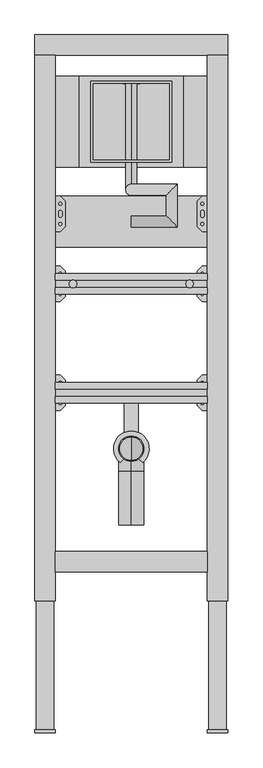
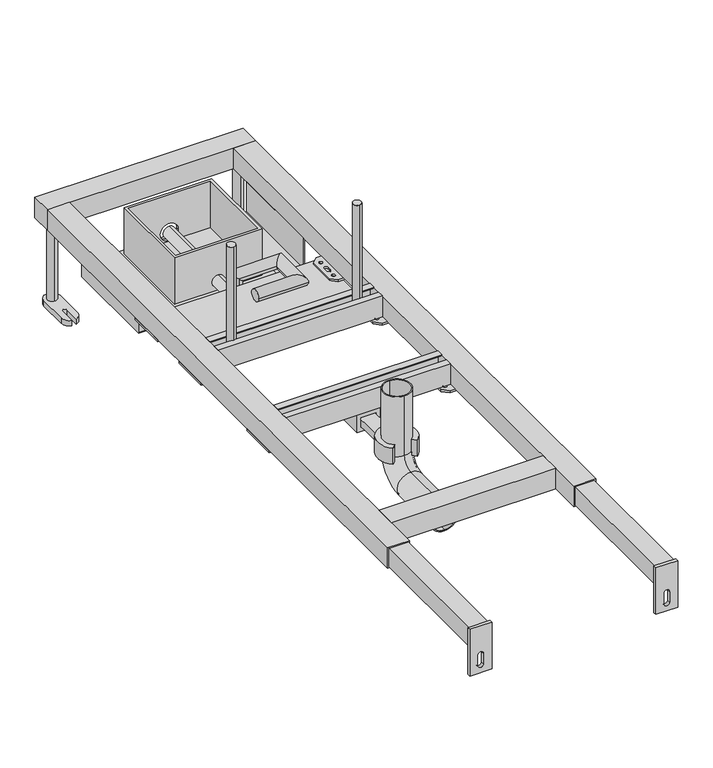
"""IFC4 building model written with IfcOpenShell, lengths in millimetres: flow terminal geometry, LIV-FIX UR STEEL SV : LIV-FIX UR STEEL SV."""

from ifc_helpers import new_model, si_unit, point, frame, frame_2d, origin, origin_with_axes, place, context, project, spatial, polyline, circle_curve, ellipse_curve, trimmed, segment, composite_curve, outline, extrude, source, transform, mapped, element, save
from ifc_brep_helpers import plane_surface, cylinder_surface, revolved_surface, advanced_brep


def flow_terminal_15969339(model_context):
    return source(origin(), model_context, "Body", "SolidModel", [
        advanced_brep(
        [(0.0, 797.0, 167.378088), (0.0, 819.0, 167.378088), (91.0, 797.0, 167.378088), (69.0, 819.0, 167.378088), (91.0, 881.5546816, 167.378088), (69.0, 859.5546816, 167.378088), (0.0, 881.5546816, 167.378088), (0.0, 859.5546816, 167.378088), (0.0, 881.5546816, 135.5), (0.0, 859.5546816, 113.5), (0.0, 1079.85, 135.5), (0.0, 1079.85, 113.5)],
        [
            (0, 1, circle_curve(frame((0.0, 808.0, 167.378088), z_axis=(-1.0, 0.0, 0.0), x_axis=(0.0, 1.0, 0.0)), 11.0)),
            (1, 0, circle_curve(frame((0.0, 808.0, 167.378088), z_axis=(-1.0, 0.0, 0.0), x_axis=(0.0, 1.0, 0.0)), 11.0)),
            (0, 2),
            (2, 3, ellipse_curve(frame((80.0, 808.0, 167.378088), z_axis=(-0.7071067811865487, -0.7071067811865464, 0.0), x_axis=(-0.7071067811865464, 0.7071067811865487, 0.0)), 15.5563492, 11.0)),
            (3, 1),
            (3, 2, ellipse_curve(frame((80.0, 808.0, 167.378088), z_axis=(-0.7071067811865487, -0.7071067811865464, 0.0), x_axis=(-0.7071067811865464, 0.7071067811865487, 0.0)), 15.5563492, 11.0)),
            (2, 4),
            (4, 5, ellipse_curve(frame((80.0, 870.5546816, 167.378088), z_axis=(0.7071067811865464, -0.7071067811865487, 0.0), x_axis=(-0.7071067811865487, -0.7071067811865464, 0.0)), 15.5563492, 11.0)),
            (5, 3),
            (5, 4, ellipse_curve(frame((80.0, 870.5546816, 167.378088), z_axis=(0.7071067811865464, -0.7071067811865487, 0.0), x_axis=(-0.7071067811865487, -0.7071067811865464, 0.0)), 15.5563492, 11.0)),
            (4, 6),
            (6, 7, ellipse_curve(frame((0.0, 870.5546816, 167.378088), z_axis=(0.7071067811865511, 0.0, 0.7071067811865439), x_axis=(0.7071067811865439, 0.0, -0.7071067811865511)), 15.5563492, 11.0)),
            (7, 5),
            (7, 6, ellipse_curve(frame((0.0, 870.5546816, 167.378088), z_axis=(0.7071067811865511, 0.0, 0.7071067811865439), x_axis=(0.7071067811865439, 0.0, -0.7071067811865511)), 15.5563492, 11.0)),
            (6, 8),
            (8, 9, ellipse_curve(frame((0.0, 870.5546816, 124.5), z_axis=(0.0, -0.7071067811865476, 0.7071067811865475), x_axis=(0.0, 0.7071067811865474, 0.7071067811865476)), 15.5563492, 11.0)),
            (9, 7),
            (9, 8, ellipse_curve(frame((0.0, 870.5546816, 124.5), z_axis=(0.0, -0.7071067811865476, 0.7071067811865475), x_axis=(0.0, 0.7071067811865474, 0.7071067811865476)), 15.5563492, 11.0)),
            (10, 11, circle_curve(frame((0.0, 1079.85, 124.5), z_axis=(0.0, 1.0, 0.0), x_axis=(0.0, 0.0, -1.0)), 11.0)),
            (11, 10, circle_curve(frame((0.0, 1079.85, 124.5), z_axis=(0.0, 1.0, 0.0), x_axis=(0.0, 0.0, -1.0)), 11.0)),
            (8, 10),
            (11, 9),
        ],
        [
            plane_surface(frame((0.0, 808.0, 156.378088), z_axis=(-1.0, 0.0, 0.0), x_axis=(0.0, 1.0, 0.0))),
            cylinder_surface(frame((0.0, 808.0, 167.378088), z_axis=(-1.0, 0.0, 0.0), x_axis=(0.0, 1.0, 0.0)), 11.0),
            cylinder_surface(frame((80.0, 808.0, 167.378088), z_axis=(0.0, -1.0, 0.0), x_axis=(-1.0, 0.0, 0.0)), 11.0),
            cylinder_surface(frame((80.0, 870.5546816, 167.378088), z_axis=(1.0, 0.0, 0.0), x_axis=(0.0, -1.0, 0.0)), 11.0),
            cylinder_surface(frame((0.0, 870.5546816, 167.378088), z_axis=(0.0, 0.0, 1.0), x_axis=(0.0, -1.0, 0.0)), 11.0),
            plane_surface(frame((-11.0, 1079.85, 124.5), z_axis=(0.0, 1.0, 0.0), x_axis=(0.0, 0.0, 1.0))),
            cylinder_surface(frame((0.0, 870.5546816, 124.5), z_axis=(0.0, -1.0, 0.0), x_axis=(0.0, 0.0, -1.0)), 11.0),
        ],
        [
            (0, [[1, 2]]),
            (1, [[-1, 3, 4, 5]]),
            (1, [[-2, -5, 6, -3]]),
            (2, [[-4, 7, 8, 9]]),
            (2, [[-6, -9, 10, -7]]),
            (3, [[-8, 11, 12, 13]]),
            (3, [[-10, -13, 14, -11]]),
            (4, [[-12, 15, 16, 17]]),
            (4, [[-14, -17, 18, -15]]),
            (5, [[19, 20]]),
            (6, [[-16, 21, -20, 22]]),
            (6, [[-18, -22, -19, -21]]),
        ],
    ),
        extrude(outline(polyline([(102.4676142, 1095.0), (102.4676142, 915.0), (-102.5323858, 915.0), (-102.5323858, 1095.0), (102.4676142, 1095.0)])), frame((0.0, 0.0, 101.5), z_axis=(0.0, 0.0, 1.0), x_axis=(1.0, 0.0, 0.0)), (0.0, 0.0, 1.0), 5.0),
        advanced_brep(
        [(-79.85, 1084.85, 196.5), (-79.85, 925.15, 196.5), (79.85, 925.15, 196.5), (79.85, 1084.85, 196.5), (74.85, 1079.85, 196.5), (74.85, 930.15, 196.5), (-74.85, 930.15, 196.5), (-74.85, 1079.85, 196.5), (-79.85, 1084.85, 101.5), (79.85, 1084.85, 101.5), (79.85, 925.15, 101.5), (-79.85, 925.15, 101.5), (74.85, 1079.85, 101.5), (-74.85, 1079.85, 101.5), (-74.85, 930.15, 101.5), (74.85, 930.15, 101.5), (11.0, 930.15, 124.5), (-11.0, 930.15, 124.5), (-16.25, 1079.85, 124.5), (16.25, 1079.85, 124.5), (-11.0, 925.15, 124.5), (11.0, 925.15, 124.5), (16.25, 1084.85, 124.5), (-16.25, 1084.85, 124.5)],
        [
            (0, 1),
            (1, 2),
            (2, 3),
            (3, 0),
            (4, 5),
            (5, 6),
            (6, 7),
            (7, 4),
            (8, 9),
            (9, 10),
            (10, 11),
            (11, 8),
            (12, 13),
            (13, 14),
            (14, 15),
            (15, 12),
            (4, 12),
            (15, 5),
            (14, 6),
            (16, 17, circle_curve(frame((0.0, 930.15, 124.5), z_axis=(0.0, -1.0, 0.0), x_axis=(1.0, 0.0, 0.0)), 11.0)),
            (17, 16, circle_curve(frame((0.0, 930.15, 124.5), z_axis=(0.0, -1.0, 0.0), x_axis=(1.0, 0.0, 0.0)), 11.0)),
            (13, 7),
            (18, 19, circle_curve(frame((0.0, 1079.85, 124.5), z_axis=(0.0, 1.0, 0.0), x_axis=(-1.0, 0.0, 0.0)), 16.25)),
            (19, 18, circle_curve(frame((0.0, 1079.85, 124.5), z_axis=(0.0, 1.0, 0.0), x_axis=(-1.0, 0.0, 0.0)), 16.25)),
            (0, 8),
            (11, 1),
            (10, 2),
            (20, 21, circle_curve(frame((0.0, 925.15, 124.5), z_axis=(0.0, 1.0, 0.0), x_axis=(1.0, 0.0, 0.0)), 11.0)),
            (21, 20, circle_curve(frame((0.0, 925.15, 124.5), z_axis=(0.0, 1.0, 0.0), x_axis=(1.0, 0.0, 0.0)), 11.0)),
            (9, 3),
            (22, 23, circle_curve(frame((0.0, 1084.85, 124.5), z_axis=(0.0, -1.0, 0.0), x_axis=(-1.0, 0.0, 0.0)), 16.25)),
            (23, 22, circle_curve(frame((0.0, 1084.85, 124.5), z_axis=(0.0, -1.0, 0.0), x_axis=(-1.0, 0.0, 0.0)), 16.25)),
            (22, 19),
            (18, 23),
            (20, 17),
            (16, 21),
        ],
        [
            plane_surface(frame((74.85, 1079.85, 196.5), z_axis=(0.0, 0.0, 1.0), x_axis=(0.0, -1.0, 0.0))),
            plane_surface(frame((74.85, 1079.85, 101.5), z_axis=(0.0, 0.0, -1.0), x_axis=(0.0, 1.0, 0.0))),
            plane_surface(frame((74.85, 1079.85, 196.5), z_axis=(-1.0, 0.0, 0.0), x_axis=(0.0, 0.0, -1.0))),
            plane_surface(frame((74.85, 930.15, 196.5), z_axis=(0.0, 1.0, 0.0), x_axis=(0.0, 0.0, -1.0))),
            plane_surface(frame((-74.85, 930.15, 196.5), z_axis=(1.0, 0.0, 0.0), x_axis=(0.0, 0.0, -1.0))),
            plane_surface(frame((-74.85, 1079.85, 196.5), z_axis=(0.0, -1.0, 0.0), x_axis=(0.0, 0.0, -1.0))),
            plane_surface(frame((-79.85, 1084.85, 196.5), z_axis=(-1.0, 0.0, 0.0), x_axis=(0.0, 0.0, -1.0))),
            plane_surface(frame((-79.85, 925.15, 196.5), z_axis=(0.0, -1.0, 0.0), x_axis=(0.0, 0.0, -1.0))),
            plane_surface(frame((79.85, 925.15, 196.5), z_axis=(1.0, 0.0, 0.0), x_axis=(0.0, 0.0, -1.0))),
            plane_surface(frame((79.85, 1084.85, 196.5), z_axis=(0.0, 1.0, 0.0), x_axis=(0.0, 0.0, -1.0))),
            revolved_surface(polyline([(-16.25, 1079.85, 124.5), (-16.25, 1084.85, 124.5)]), (0.0, 1084.85, 124.5), (0.0, -1.0, 0.0)),
            revolved_surface(polyline([(11.0, 930.15, 124.5), (11.0, 925.15, 124.5)]), (0.0, 925.15, 124.5), (0.0, 1.0, 0.0)),
        ],
        [
            (0, [[1, 2, 3, 4], [5, 6, 7, 8]]),
            (1, [[9, 10, 11, 12], [13, 14, 15, 16]]),
            (2, [[-5, 17, -16, 18]]),
            (3, [[-6, -18, -15, 19], [20, 21]]),
            (4, [[-7, -19, -14, 22]]),
            (5, [[-8, -22, -13, -17], [23, 24]]),
            (6, [[-1, 25, -12, 26]]),
            (7, [[-2, -26, -11, 27], [28, 29]]),
            (8, [[-3, -27, -10, 30]]),
            (9, [[-4, -30, -9, -25], [31, 32]]),
            (10, [[33, -23, 34, -31]]),
            (10, [[-33, -32, -34, -24]]),
            (11, [[35, -20, 36, -28]]),
            (11, [[-35, -29, -36, -21]]),
        ],
    ),
        extrude(outline(composite_curve([segment(trimmed(circle_curve(frame_2d((-115.0, 685.0)), 7.5154833), [point((-115.0, 692.5154833))], [point((-115.0, 677.4845167))], False, "CARTESIAN"), True, "CONTINUOUS"), segment(trimmed(circle_curve(frame_2d((-115.0, 685.0)), 7.5154833), [point((-115.0, 677.4845167))], [point((-115.0, 692.5154833))], False, "CARTESIAN"), True, "CONTINUOUS")], self_intersect=False)), frame((0.0, 0.0, 180.0), z_axis=(0.0, 0.0, 1.0), x_axis=(1.0, 0.0, 0.0)), (0.0, 0.0, 1.0), 200.0),
        extrude(outline(composite_curve([segment(trimmed(circle_curve(frame_2d((115.0, 685.0)), 7.5154833), [point((115.0, 692.5154833))], [point((115.0, 677.4845167))], False, "CARTESIAN"), True, "CONTINUOUS"), segment(trimmed(circle_curve(frame_2d((115.0, 685.0)), 7.5154833), [point((115.0, 677.4845167))], [point((115.0, 692.5154833))], False, "CARTESIAN"), True, "CONTINUOUS")], self_intersect=False)), frame((0.0, 0.0, 180.0), z_axis=(0.0, 0.0, 1.0), x_axis=(1.0, 0.0, 0.0)), (0.0, 0.0, 1.0), 200.0),
        extrude(outline(polyline([(150.0, 1095.0), (150.0, 915.0), (-150.0, 915.0), (-150.0, 1095.0), (150.0, 1095.0)])), frame((0.0, 0.0, 83.5), z_axis=(0.0, 0.0, 1.0), x_axis=(1.0, 0.0, 0.0)), (0.0, 0.0, 1.0), 18.0),
        extrude(outline(polyline([(160.0, 185.0), (160.0, 150.0), (83.5, 150.0), (83.5, 123.5), (82.0, 123.5), (82.0, 151.5), (158.5, 151.5), (158.5, 185.0), (160.0, 185.0)])), frame((0.0, 915.0, 0.0), z_axis=(0.0, 1.0, 0.0), x_axis=(0.0, 0.0, 1.0)), (0.0, 0.0, 1.0), 180.0),
        extrude(outline(polyline([(160.0, -185.0), (158.5, -185.0), (158.5, -151.5), (82.0, -151.5), (82.0, -123.5), (83.5, -123.5), (83.5, -150.0), (160.0, -150.0), (160.0, -185.0)])), frame((0.0, 915.0, 0.0), z_axis=(0.0, 1.0, 0.0), x_axis=(0.0, 0.0, 1.0)), (0.0, 0.0, 1.0), 180.0),
        extrude(outline(polyline([(665.0, 200.0), (677.4845167, 200.0), (677.4845167, 198.5), (666.5, 198.5), (666.5, 161.5), (703.5, 161.5), (703.5, 198.5), (692.5154833, 198.5), (692.5154833, 200.0), (705.0, 200.0), (705.0, 160.0), (665.0, 160.0), (665.0, 200.0)])), frame((-150.0, 0.0, 0.0), z_axis=(1.0, 0.0, 0.0), x_axis=(0.0, 1.0, 0.0)), (0.0, 0.0, 1.0), 300.0),
        extrude(outline(polyline([(140.0, 650.0), (130.0, 660.0), (130.0, 710.0), (140.0, 720.0), (190.0, 720.0), (190.0, 650.0), (140.0, 650.0)]), holes=[composite_curve([segment(trimmed(circle_curve(frame_2d((175.0, 685.0)), 4.5), [point((175.0, 680.5))], [point((175.0, 689.5))], True, "CARTESIAN"), True, "CONTINUOUS"), segment(trimmed(circle_curve(frame_2d((175.0, 685.0)), 4.5), [point((175.0, 689.5))], [point((175.0, 680.5))], True, "CARTESIAN"), True, "CONTINUOUS")], self_intersect=False), composite_curve([segment(trimmed(circle_curve(frame_2d((175.0, 705.0)), 4.5), [point((175.0, 700.5))], [point((175.0, 709.5))], True, "CARTESIAN"), True, "CONTINUOUS"), segment(trimmed(circle_curve(frame_2d((175.0, 705.0)), 4.5), [point((175.0, 709.5))], [point((175.0, 700.5))], True, "CARTESIAN"), True, "CONTINUOUS")], self_intersect=False), composite_curve([segment(trimmed(circle_curve(frame_2d((175.0, 665.0)), 4.5), [point((175.0, 660.5))], [point((175.0, 669.5))], True, "CARTESIAN"), True, "CONTINUOUS"), segment(trimmed(circle_curve(frame_2d((175.0, 665.0)), 4.5), [point((175.0, 669.5))], [point((175.0, 660.5))], True, "CARTESIAN"), True, "CONTINUOUS")], self_intersect=False), composite_curve([segment(trimmed(circle_curve(frame_2d((140.0, 705.0)), 2.9795218), [point((140.0, 702.0204782))], [point((140.0, 707.9795218))], True, "CARTESIAN"), True, "CONTINUOUS"), segment(trimmed(circle_curve(frame_2d((140.0, 705.0)), 2.9795218), [point((140.0, 707.9795218))], [point((140.0, 702.0204782))], True, "CARTESIAN"), True, "CONTINUOUS")], self_intersect=False), composite_curve([segment(trimmed(circle_curve(frame_2d((140.0, 665.0)), 2.9795218), [point((140.0, 662.0204782))], [point((140.0, 667.9795218))], True, "CARTESIAN"), True, "CONTINUOUS"), segment(trimmed(circle_curve(frame_2d((140.0, 665.0)), 2.9795218), [point((140.0, 667.9795218))], [point((140.0, 662.0204782))], True, "CARTESIAN"), True, "CONTINUOUS")], self_intersect=False), composite_curve([segment(trimmed(circle_curve(frame_2d((140.0, 688.5)), 3.5), [point((143.5, 688.5))], [point((136.5, 688.5))], True, "CARTESIAN"), True, "CONTINUOUS"), segment(polyline([(136.5, 688.5), (136.5, 681.5)]), True, "CONTINUOUS"), segment(trimmed(circle_curve(frame_2d((140.0, 681.5)), 3.5), [point((136.5, 681.5))], [point((143.5, 681.5))], True, "CARTESIAN"), True, "CONTINUOUS"), segment(polyline([(143.5, 681.5), (143.5, 688.5)]), True, "CONTINUOUS")], self_intersect=False)]), frame((0.0, 0.0, 156.0), z_axis=(0.0, 0.0, 1.0), x_axis=(1.0, 0.0, 0.0)), (0.0, 0.0, 1.0), 4.0),
        extrude(outline(polyline([(-140.0, 650.0), (-190.0, 650.0), (-190.0, 720.0), (-140.0, 720.0), (-130.0, 710.0), (-130.0, 660.0), (-140.0, 650.0)]), holes=[composite_curve([segment(trimmed(circle_curve(frame_2d((-175.0, 685.0)), 4.5), [point((-175.0, 680.5))], [point((-175.0, 689.5))], True, "CARTESIAN"), True, "CONTINUOUS"), segment(trimmed(circle_curve(frame_2d((-175.0, 685.0)), 4.5), [point((-175.0, 689.5))], [point((-175.0, 680.5))], True, "CARTESIAN"), True, "CONTINUOUS")], self_intersect=False), composite_curve([segment(trimmed(circle_curve(frame_2d((-175.0, 705.0)), 4.5), [point((-175.0, 700.5))], [point((-175.0, 709.5))], True, "CARTESIAN"), True, "CONTINUOUS"), segment(trimmed(circle_curve(frame_2d((-175.0, 705.0)), 4.5), [point((-175.0, 709.5))], [point((-175.0, 700.5))], True, "CARTESIAN"), True, "CONTINUOUS")], self_intersect=False), composite_curve([segment(trimmed(circle_curve(frame_2d((-175.0, 665.0)), 4.5), [point((-175.0, 660.5))], [point((-175.0, 669.5))], True, "CARTESIAN"), True, "CONTINUOUS"), segment(trimmed(circle_curve(frame_2d((-175.0, 665.0)), 4.5), [point((-175.0, 669.5))], [point((-175.0, 660.5))], True, "CARTESIAN"), True, "CONTINUOUS")], self_intersect=False), composite_curve([segment(trimmed(circle_curve(frame_2d((-140.0, 705.0)), 2.9795218), [point((-140.0, 702.0204782))], [point((-140.0, 707.9795218))], True, "CARTESIAN"), True, "CONTINUOUS"), segment(trimmed(circle_curve(frame_2d((-140.0, 705.0)), 2.9795218), [point((-140.0, 707.9795218))], [point((-140.0, 702.0204782))], True, "CARTESIAN"), True, "CONTINUOUS")], self_intersect=False), composite_curve([segment(trimmed(circle_curve(frame_2d((-140.0, 665.0)), 2.9795218), [point((-140.0, 662.0204782))], [point((-140.0, 667.9795218))], True, "CARTESIAN"), True, "CONTINUOUS"), segment(trimmed(circle_curve(frame_2d((-140.0, 665.0)), 2.9795218), [point((-140.0, 667.9795218))], [point((-140.0, 662.0204782))], True, "CARTESIAN"), True, "CONTINUOUS")], self_intersect=False), composite_curve([segment(polyline([(-143.5, 688.5), (-143.5, 681.5)]), True, "CONTINUOUS"), segment(trimmed(circle_curve(frame_2d((-140.0, 681.5)), 3.5), [point((-143.5, 681.5))], [point((-136.5, 681.5))], True, "CARTESIAN"), True, "CONTINUOUS"), segment(polyline([(-136.5, 681.5), (-136.5, 688.5)]), True, "CONTINUOUS"), segment(trimmed(circle_curve(frame_2d((-140.0, 688.5)), 3.5), [point((-136.5, 688.5))], [point((-143.5, 688.5))], True, "CARTESIAN"), True, "CONTINUOUS")], self_intersect=False)]), frame((0.0, 0.0, 156.0), z_axis=(0.0, 0.0, 1.0), x_axis=(1.0, 0.0, 0.0)), (0.0, 0.0, 1.0), 4.0),
        extrude(outline(polyline([(150.0, 858.0), (150.0, 758.0), (-150.0, 758.0), (-150.0, 858.0), (150.0, 858.0)])), frame((0.0, 0.0, 138.0), z_axis=(0.0, 0.0, 1.0), x_axis=(1.0, 0.0, 0.0)), (0.0, 0.0, 1.0), 18.0),
        advanced_brep(
        [(-14.0, 490.0, 136.5), (-14.0, 490.0, 150.0), (14.0, 490.0, 150.0), (14.0, 490.0, 136.5), (14.0, 392.0780299, 136.5), (22.1922786, 332.9352116, 136.5), (15.0727332, 340.0547571, 136.5), (-15.0727332, 340.0547571, 136.5), (-22.1922786, 332.9352116, 136.5), (-14.0, 392.0780299, 136.5), (14.0, 392.0780299, 150.0), (-14.0, 392.0780299, 150.0), (0.0, 395.0, 150.0), (15.0727332, 340.0547571, 167.5), (22.1922786, 332.9352116, 167.5), (0.0, 395.0, 167.5), (-22.1922786, 332.9352116, 167.5), (-15.0727332, 340.0547571, 167.5)],
        [
            (0, 1),
            (1, 2),
            (2, 3),
            (3, 0),
            (3, 4),
            (4, 5, circle_curve(frame((0.0, 360.0, 136.5), z_axis=(0.0, 0.0, -1.0), x_axis=(0.0, -1.0, 0.0)), 35.0)),
            (5, 6),
            (6, 7, circle_curve(frame((0.0, 360.0, 136.5), z_axis=(0.0, 0.0, 1.0), x_axis=(0.0, -1.0, 0.0)), 25.0)),
            (7, 8),
            (8, 9, circle_curve(frame((0.0, 360.0, 136.5), z_axis=(0.0, 0.0, -1.0), x_axis=(0.0, -1.0, 0.0)), 35.0)),
            (9, 0),
            (2, 10),
            (10, 4),
            (1, 11),
            (11, 12, circle_curve(frame((0.0, 360.0, 150.0), z_axis=(0.0, 0.0, -1.0), x_axis=(0.0, -1.0, 0.0)), 35.0)),
            (12, 10, circle_curve(frame((0.0, 360.0, 150.0), z_axis=(0.0, 0.0, -1.0), x_axis=(0.0, -1.0, 0.0)), 35.0)),
            (9, 11),
            (13, 14),
            (14, 15, circle_curve(frame((0.0, 360.0, 167.5), z_axis=(0.0, 0.0, 1.0), x_axis=(0.0, -1.0, 0.0)), 35.0)),
            (15, 16, circle_curve(frame((0.0, 360.0, 167.5), z_axis=(0.0, 0.0, 1.0), x_axis=(0.0, -1.0, 0.0)), 35.0)),
            (16, 17),
            (17, 13, circle_curve(frame((0.0, 360.0, 167.5), z_axis=(0.0, 0.0, -1.0), x_axis=(0.0, -1.0, 0.0)), 25.0)),
            (17, 7),
            (6, 13),
            (16, 8),
            (15, 12),
            (14, 5),
        ],
        [
            plane_surface(frame((-14.0, 490.0, 136.5), z_axis=(0.0, 1.0, 0.0), x_axis=(0.0, 0.0, 1.0))),
            plane_surface(frame((14.0, 490.0, 136.5), z_axis=(0.0, 0.0, -1.0), x_axis=(0.0, -1.0, 0.0))),
            plane_surface(frame((14.0, 490.0, 150.0), z_axis=(1.0, 0.0, 0.0), x_axis=(0.0, -1.0, 0.0))),
            plane_surface(frame((-14.0, 490.0, 150.0), z_axis=(0.0, 0.0, 1.0), x_axis=(0.0, -1.0, 0.0))),
            plane_surface(frame((-14.0, 490.0, 136.5), z_axis=(-1.0, 0.0, 0.0), x_axis=(0.0, -1.0, 0.0))),
            plane_surface(frame((0.0, 335.0, 167.5), z_axis=(0.0, 0.0, 1.0), x_axis=(-1.0, 0.0, 0.0))),
            revolved_surface(polyline([(0.0, 335.0, 167.5), (0.0, 335.0, 136.5)]), (0.0, 360.0, 167.5), (0.0, 0.0, 1.0)),
            plane_surface(frame((-15.0727332, 340.0547571, 136.5), z_axis=(0.7071067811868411, -0.707106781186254, 0.0), x_axis=(0.0, 0.0, 1.0))),
            cylinder_surface(frame((0.0, 360.0, 167.5), z_axis=(0.0, 0.0, -1.0), x_axis=(0.0, -1.0, 0.0)), 35.0),
            plane_surface(frame((22.1922786, 332.9352116, 136.5), z_axis=(-0.7071067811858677, -0.7071067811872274, 0.0), x_axis=(0.0, 0.0, 1.0))),
        ],
        [
            (0, [[1, 2, 3, 4]]),
            (1, [[-4, 5, 6, 7, 8, 9, 10, 11]]),
            (2, [[-3, 12, 13, -5]]),
            (3, [[-2, 14, 15, 16, -12]]),
            (4, [[-1, -11, 17, -14]]),
            (5, [[18, 19, 20, 21, 22]]),
            (6, [[-22, 23, -8, 24]]),
            (7, [[-21, 25, -9, -23]]),
            (8, [[-20, 26, -15, -17, -10, -25]]),
            (8, [[-19, 27, -6, -13, -16, -26]]),
            (9, [[-18, -24, -7, -27]]),
        ],
    ),
        extrude(outline(polyline([(450.0, 200.0), (462.4845167, 200.0), (462.4845167, 198.5), (451.5, 198.5), (451.5, 161.5), (488.5, 161.5), (488.5, 198.5), (477.5154833, 198.5), (477.5154833, 200.0), (490.0, 200.0), (490.0, 160.0), (450.0, 160.0), (450.0, 200.0)])), frame((-150.0, 0.0, 0.0), z_axis=(1.0, 0.0, 0.0), x_axis=(0.0, 1.0, 0.0)), (0.0, 0.0, 1.0), 300.0),
        extrude(outline(polyline([(140.0, 788.0), (130.0, 798.0), (130.0, 848.0), (140.0, 858.0), (190.0, 858.0), (190.0, 788.0), (140.0, 788.0)]), holes=[composite_curve([segment(trimmed(circle_curve(frame_2d((175.0, 823.0)), 4.5), [point((175.0, 818.5))], [point((175.0, 827.5))], True, "CARTESIAN"), True, "CONTINUOUS"), segment(trimmed(circle_curve(frame_2d((175.0, 823.0)), 4.5), [point((175.0, 827.5))], [point((175.0, 818.5))], True, "CARTESIAN"), True, "CONTINUOUS")], self_intersect=False), composite_curve([segment(trimmed(circle_curve(frame_2d((175.0, 843.0)), 4.5), [point((175.0, 838.5))], [point((175.0, 847.5))], True, "CARTESIAN"), True, "CONTINUOUS"), segment(trimmed(circle_curve(frame_2d((175.0, 843.0)), 4.5), [point((175.0, 847.5))], [point((175.0, 838.5))], True, "CARTESIAN"), True, "CONTINUOUS")], self_intersect=False), composite_curve([segment(trimmed(circle_curve(frame_2d((175.0, 803.0)), 4.5), [point((175.0, 798.5))], [point((175.0, 807.5))], True, "CARTESIAN"), True, "CONTINUOUS"), segment(trimmed(circle_curve(frame_2d((175.0, 803.0)), 4.5), [point((175.0, 807.5))], [point((175.0, 798.5))], True, "CARTESIAN"), True, "CONTINUOUS")], self_intersect=False), composite_curve([segment(trimmed(circle_curve(frame_2d((140.0, 843.0)), 2.9795218), [point((140.0, 840.0204782))], [point((140.0, 845.9795218))], True, "CARTESIAN"), True, "CONTINUOUS"), segment(trimmed(circle_curve(frame_2d((140.0, 843.0)), 2.9795218), [point((140.0, 845.9795218))], [point((140.0, 840.0204782))], True, "CARTESIAN"), True, "CONTINUOUS")], self_intersect=False), composite_curve([segment(trimmed(circle_curve(frame_2d((140.0, 803.0)), 2.9795218), [point((140.0, 800.0204782))], [point((140.0, 805.9795218))], True, "CARTESIAN"), True, "CONTINUOUS"), segment(trimmed(circle_curve(frame_2d((140.0, 803.0)), 2.9795218), [point((140.0, 805.9795218))], [point((140.0, 800.0204782))], True, "CARTESIAN"), True, "CONTINUOUS")], self_intersect=False), composite_curve([segment(trimmed(circle_curve(frame_2d((140.0, 826.5)), 3.5), [point((143.5, 826.5))], [point((136.5, 826.5))], True, "CARTESIAN"), True, "CONTINUOUS"), segment(polyline([(136.5, 826.5), (136.5, 819.5)]), True, "CONTINUOUS"), segment(trimmed(circle_curve(frame_2d((140.0, 819.5)), 3.5), [point((136.5, 819.5))], [point((143.5, 819.5))], True, "CARTESIAN"), True, "CONTINUOUS"), segment(polyline([(143.5, 819.5), (143.5, 826.5)]), True, "CONTINUOUS")], self_intersect=False)]), frame((0.0, 0.0, 156.0), z_axis=(0.0, 0.0, 1.0), x_axis=(1.0, 0.0, 0.0)), (0.0, 0.0, 1.0), 4.0),
        extrude(outline(polyline([(-140.0, 788.0), (-190.0, 788.0), (-190.0, 858.0), (-140.0, 858.0), (-130.0, 848.0), (-130.0, 798.0), (-140.0, 788.0)]), holes=[composite_curve([segment(trimmed(circle_curve(frame_2d((-175.0, 823.0)), 4.5), [point((-175.0, 818.5))], [point((-175.0, 827.5))], True, "CARTESIAN"), True, "CONTINUOUS"), segment(trimmed(circle_curve(frame_2d((-175.0, 823.0)), 4.5), [point((-175.0, 827.5))], [point((-175.0, 818.5))], True, "CARTESIAN"), True, "CONTINUOUS")], self_intersect=False), composite_curve([segment(trimmed(circle_curve(frame_2d((-175.0, 843.0)), 4.5), [point((-175.0, 838.5))], [point((-175.0, 847.5))], True, "CARTESIAN"), True, "CONTINUOUS"), segment(trimmed(circle_curve(frame_2d((-175.0, 843.0)), 4.5), [point((-175.0, 847.5))], [point((-175.0, 838.5))], True, "CARTESIAN"), True, "CONTINUOUS")], self_intersect=False), composite_curve([segment(trimmed(circle_curve(frame_2d((-175.0, 803.0)), 4.5), [point((-175.0, 798.5))], [point((-175.0, 807.5))], True, "CARTESIAN"), True, "CONTINUOUS"), segment(trimmed(circle_curve(frame_2d((-175.0, 803.0)), 4.5), [point((-175.0, 807.5))], [point((-175.0, 798.5))], True, "CARTESIAN"), True, "CONTINUOUS")], self_intersect=False), composite_curve([segment(trimmed(circle_curve(frame_2d((-140.0, 843.0)), 2.9795218), [point((-140.0, 840.0204782))], [point((-140.0, 845.9795218))], True, "CARTESIAN"), True, "CONTINUOUS"), segment(trimmed(circle_curve(frame_2d((-140.0, 843.0)), 2.9795218), [point((-140.0, 845.9795218))], [point((-140.0, 840.0204782))], True, "CARTESIAN"), True, "CONTINUOUS")], self_intersect=False), composite_curve([segment(trimmed(circle_curve(frame_2d((-140.0, 803.0)), 2.9795218), [point((-140.0, 800.0204782))], [point((-140.0, 805.9795218))], True, "CARTESIAN"), True, "CONTINUOUS"), segment(trimmed(circle_curve(frame_2d((-140.0, 803.0)), 2.9795218), [point((-140.0, 805.9795218))], [point((-140.0, 800.0204782))], True, "CARTESIAN"), True, "CONTINUOUS")], self_intersect=False), composite_curve([segment(polyline([(-143.5, 826.5), (-143.5, 819.5)]), True, "CONTINUOUS"), segment(trimmed(circle_curve(frame_2d((-140.0, 819.5)), 3.5), [point((-143.5, 819.5))], [point((-136.5, 819.5))], True, "CARTESIAN"), True, "CONTINUOUS"), segment(polyline([(-136.5, 819.5), (-136.5, 826.5)]), True, "CONTINUOUS"), segment(trimmed(circle_curve(frame_2d((-140.0, 826.5)), 3.5), [point((-136.5, 826.5))], [point((-143.5, 826.5))], True, "CARTESIAN"), True, "CONTINUOUS")], self_intersect=False)]), frame((0.0, 0.0, 156.0), z_axis=(0.0, 0.0, 1.0), x_axis=(1.0, 0.0, 0.0)), (0.0, 0.0, 1.0), 4.0),
        advanced_brep(
        [(0.0, 210.0, 75.0), (0.0, 210.0, 125.0), (0.0, 210.0, 77.0), (0.0, 210.0, 123.0), (0.0, 315.0, 75.0), (0.0, 315.0, 125.0), (0.0, 385.0, 260.0), (0.0, 335.0, 260.0), (0.0, 383.0, 260.0), (0.0, 337.0, 260.0), (0.0, 335.0, 145.0), (0.0, 385.0, 145.0), (0.0, 315.0, 77.0), (0.0, 315.0, 123.0), (0.0, 337.0, 145.0), (0.0, 383.0, 145.0)],
        [
            (0, 1, circle_curve(frame((0.0, 210.0, 100.0), z_axis=(0.0, -1.0, 0.0), x_axis=(0.0, 0.0, 1.0)), 25.0)),
            (1, 0, circle_curve(frame((0.0, 210.0, 100.0), z_axis=(0.0, -1.0, 0.0), x_axis=(0.0, 0.0, 1.0)), 25.0)),
            (2, 3, circle_curve(frame((0.0, 210.0, 100.0), z_axis=(0.0, 1.0, 0.0), x_axis=(0.0, 0.0, 1.0)), 23.0)),
            (3, 2, circle_curve(frame((0.0, 210.0, 100.0), z_axis=(0.0, 1.0, 0.0), x_axis=(0.0, 0.0, 1.0)), 23.0)),
            (0, 4),
            (4, 5, circle_curve(frame((0.0, 315.0, 100.0), z_axis=(0.0, -1.0, 0.0), x_axis=(0.0, 0.0, 1.0)), 25.0)),
            (5, 1),
            (5, 4, circle_curve(frame((0.0, 315.0, 100.0), z_axis=(0.0, -1.0, 0.0), x_axis=(0.0, 0.0, 1.0)), 25.0)),
            (6, 7, circle_curve(frame((0.0, 360.0, 260.0), z_axis=(0.0, 0.0, 1.0), x_axis=(0.0, -1.0, 0.0)), 25.0)),
            (7, 6, circle_curve(frame((0.0, 360.0, 260.0), z_axis=(0.0, 0.0, 1.0), x_axis=(0.0, -1.0, 0.0)), 25.0)),
            (8, 9, circle_curve(frame((0.0, 360.0, 260.0), z_axis=(0.0, 0.0, -1.0), x_axis=(0.0, -1.0, 0.0)), 23.0)),
            (9, 8, circle_curve(frame((0.0, 360.0, 260.0), z_axis=(0.0, 0.0, -1.0), x_axis=(0.0, -1.0, 0.0)), 23.0)),
            (10, 11, circle_curve(frame((0.0, 360.0, 145.0), z_axis=(0.0, 0.0, 1.0), x_axis=(0.0, -1.0, 0.0)), 25.0)),
            (11, 6),
            (7, 10),
            (11, 10, circle_curve(frame((0.0, 360.0, 145.0), z_axis=(0.0, 0.0, 1.0), x_axis=(0.0, -1.0, 0.0)), 25.0)),
            (10, 5, circle_curve(frame((0.0, 315.0, 145.0), z_axis=(-1.0, 0.0, 0.0), x_axis=(0.0, 0.0, -1.0)), 20.0)),
            (4, 11, circle_curve(frame((0.0, 315.0, 145.0), z_axis=(1.0, 0.0, 0.0), x_axis=(0.0, 0.0, -1.0)), 70.0)),
            (2, 12),
            (12, 13, circle_curve(frame((0.0, 315.0, 100.0), z_axis=(0.0, 1.0, 0.0), x_axis=(0.0, 0.0, 1.0)), 23.0)),
            (13, 3),
            (13, 12, circle_curve(frame((0.0, 315.0, 100.0), z_axis=(0.0, 1.0, 0.0), x_axis=(0.0, 0.0, 1.0)), 23.0)),
            (14, 13, circle_curve(frame((0.0, 315.0, 145.0), z_axis=(-1.0, 0.0, 0.0), x_axis=(0.0, 0.0, -1.0)), 22.0)),
            (12, 15, circle_curve(frame((0.0, 315.0, 145.0), z_axis=(1.0, 0.0, 0.0), x_axis=(0.0, 0.0, -1.0)), 68.0)),
            (15, 14, circle_curve(frame((0.0, 360.0, 145.0), z_axis=(0.0, 0.0, 1.0), x_axis=(0.0, -1.0, 0.0)), 23.0)),
            (14, 15, circle_curve(frame((0.0, 360.0, 145.0), z_axis=(0.0, 0.0, 1.0), x_axis=(0.0, -1.0, 0.0)), 23.0)),
            (15, 8),
            (9, 14),
        ],
        [
            plane_surface(frame((0.0, 210.0, 100.0), z_axis=(0.0, -1.0, 0.0), x_axis=(1.0, 0.0, 0.0))),
            cylinder_surface(frame((0.0, 210.0, 100.0), z_axis=(0.0, -1.0, 0.0), x_axis=(0.0, 0.0, 1.0)), 25.0),
            plane_surface(frame((0.0, 360.0, 260.0), z_axis=(0.0, 0.0, 1.0), x_axis=(1.0, 0.0, 0.0))),
            cylinder_surface(frame((0.0, 360.0, 145.0), z_axis=(0.0, 0.0, -1.0), x_axis=(0.0, -1.0, 0.0)), 25.0),
            revolved_surface(trimmed(ellipse_curve(frame((0.0, 315.0, 100.0), z_axis=(0.0, -1.0, 0.0), x_axis=(0.0, 0.0, 1.0)), 25.0, 25.0), [point((0.0, 315.0, 75.0))], [point((0.0, 315.0, 125.0))], True, "CARTESIAN"), (0.0, 315.0, 145.0), (1.0, 0.0, 0.0)),
            revolved_surface(trimmed(ellipse_curve(frame((0.0, 315.0, 100.0), z_axis=(0.0, -1.0, 0.0), x_axis=(0.0, 0.0, 1.0)), 25.0, 25.0), [point((0.0, 315.0, 125.0))], [point((0.0, 315.0, 75.0))], True, "CARTESIAN"), (0.0, 315.0, 145.0), (1.0, 0.0, 0.0)),
            revolved_surface(polyline([(0.0, 315.0, 123.0), (0.0, 210.0, 123.0)]), (0.0, 210.0, 100.0), (0.0, 1.0, 0.0)),
            revolved_surface(trimmed(ellipse_curve(frame((0.0, 315.0, 100.0), z_axis=(0.0, 1.0, 0.0), x_axis=(0.0, 0.0, 1.0)), 23.0, 23.0), [point((0.0, 315.0, 77.0))], [point((0.0, 315.0, 123.0))], True, "CARTESIAN"), (0.0, 315.0, 145.0), (1.0, 0.0, 0.0)),
            revolved_surface(trimmed(ellipse_curve(frame((0.0, 315.0, 100.0), z_axis=(0.0, 1.0, 0.0), x_axis=(0.0, 0.0, 1.0)), 23.0, 23.0), [point((0.0, 315.0, 123.0))], [point((0.0, 315.0, 77.0))], True, "CARTESIAN"), (0.0, 315.0, 145.0), (1.0, 0.0, 0.0)),
            revolved_surface(polyline([(0.0, 337.0, 260.0), (0.0, 337.0, 145.0)]), (0.0, 360.0, 145.0), (0.0, 0.0, 1.0)),
        ],
        [
            (0, [[1, 2], [3, 4]]),
            (1, [[-1, 5, 6, 7]]),
            (1, [[-2, -7, 8, -5]]),
            (2, [[9, 10], [11, 12]]),
            (3, [[13, 14, -10, 15]]),
            (3, [[16, -15, -9, -14]]),
            (4, [[17, -6, 18, -13]]),
            (5, [[-18, -8, -17, -16]]),
            (6, [[-3, 19, 20, 21]]),
            (6, [[-4, -21, 22, -19]]),
            (7, [[23, -20, 24, 25]]),
            (8, [[-24, -22, -23, 26]]),
            (9, [[-25, 27, -12, 28]]),
            (9, [[-26, -28, -11, -27]]),
        ],
    ),
        extrude(outline(polyline([(160.0, 20.9285173), (160.0, -20.5714827), (126.5, -20.5714827), (126.5, 20.9285173), (160.0, 20.9285173)]), holes=[polyline([(152.5, 13.75), (134.0, 13.75), (134.0, -13.75), (152.5, -13.75), (152.5, 13.75)])]), frame((0.0, 450.0, 0.0), z_axis=(0.0, 1.0, 0.0), x_axis=(0.0, 0.0, 1.0)), (0.0, 0.0, 1.0), 40.0),
        extrude(outline(polyline([(140.0, 435.0), (130.0, 445.0), (130.0, 495.0), (140.0, 505.0), (190.0, 505.0), (190.0, 435.0), (140.0, 435.0)]), holes=[composite_curve([segment(trimmed(circle_curve(frame_2d((175.0, 470.0)), 4.5), [point((175.0, 465.5))], [point((175.0, 474.5))], True, "CARTESIAN"), True, "CONTINUOUS"), segment(trimmed(circle_curve(frame_2d((175.0, 470.0)), 4.5), [point((175.0, 474.5))], [point((175.0, 465.5))], True, "CARTESIAN"), True, "CONTINUOUS")], self_intersect=False), composite_curve([segment(trimmed(circle_curve(frame_2d((175.0, 490.0)), 4.5), [point((175.0, 485.5))], [point((175.0, 494.5))], True, "CARTESIAN"), True, "CONTINUOUS"), segment(trimmed(circle_curve(frame_2d((175.0, 490.0)), 4.5), [point((175.0, 494.5))], [point((175.0, 485.5))], True, "CARTESIAN"), True, "CONTINUOUS")], self_intersect=False), composite_curve([segment(trimmed(circle_curve(frame_2d((175.0, 450.0)), 4.5), [point((175.0, 445.5))], [point((175.0, 454.5))], True, "CARTESIAN"), True, "CONTINUOUS"), segment(trimmed(circle_curve(frame_2d((175.0, 450.0)), 4.5), [point((175.0, 454.5))], [point((175.0, 445.5))], True, "CARTESIAN"), True, "CONTINUOUS")], self_intersect=False), composite_curve([segment(trimmed(circle_curve(frame_2d((140.0, 490.0)), 2.9795218), [point((140.0, 487.0204782))], [point((140.0, 492.9795218))], True, "CARTESIAN"), True, "CONTINUOUS"), segment(trimmed(circle_curve(frame_2d((140.0, 490.0)), 2.9795218), [point((140.0, 492.9795218))], [point((140.0, 487.0204782))], True, "CARTESIAN"), True, "CONTINUOUS")], self_intersect=False), composite_curve([segment(trimmed(circle_curve(frame_2d((140.0, 450.0)), 2.9795218), [point((140.0, 447.0204782))], [point((140.0, 452.9795218))], True, "CARTESIAN"), True, "CONTINUOUS"), segment(trimmed(circle_curve(frame_2d((140.0, 450.0)), 2.9795218), [point((140.0, 452.9795218))], [point((140.0, 447.0204782))], True, "CARTESIAN"), True, "CONTINUOUS")], self_intersect=False), composite_curve([segment(trimmed(circle_curve(frame_2d((140.0, 473.5)), 3.5), [point((143.5, 473.5))], [point((136.5, 473.5))], True, "CARTESIAN"), True, "CONTINUOUS"), segment(polyline([(136.5, 473.5), (136.5, 466.5)]), True, "CONTINUOUS"), segment(trimmed(circle_curve(frame_2d((140.0, 466.5)), 3.5), [point((136.5, 466.5))], [point((143.5, 466.5))], True, "CARTESIAN"), True, "CONTINUOUS"), segment(polyline([(143.5, 466.5), (143.5, 473.5)]), True, "CONTINUOUS")], self_intersect=False)]), frame((0.0, 0.0, 156.0), z_axis=(0.0, 0.0, 1.0), x_axis=(1.0, 0.0, 0.0)), (0.0, 0.0, 1.0), 4.0),
        extrude(outline(polyline([(-140.0, 435.0), (-190.0, 435.0), (-190.0, 505.0), (-140.0, 505.0), (-130.0, 495.0), (-130.0, 445.0), (-140.0, 435.0)]), holes=[composite_curve([segment(trimmed(circle_curve(frame_2d((-175.0, 470.0)), 4.5), [point((-175.0, 465.5))], [point((-175.0, 474.5))], True, "CARTESIAN"), True, "CONTINUOUS"), segment(trimmed(circle_curve(frame_2d((-175.0, 470.0)), 4.5), [point((-175.0, 474.5))], [point((-175.0, 465.5))], True, "CARTESIAN"), True, "CONTINUOUS")], self_intersect=False), composite_curve([segment(trimmed(circle_curve(frame_2d((-175.0, 490.0)), 4.5), [point((-175.0, 485.5))], [point((-175.0, 494.5))], True, "CARTESIAN"), True, "CONTINUOUS"), segment(trimmed(circle_curve(frame_2d((-175.0, 490.0)), 4.5), [point((-175.0, 494.5))], [point((-175.0, 485.5))], True, "CARTESIAN"), True, "CONTINUOUS")], self_intersect=False), composite_curve([segment(trimmed(circle_curve(frame_2d((-175.0, 450.0)), 4.5), [point((-175.0, 445.5))], [point((-175.0, 454.5))], True, "CARTESIAN"), True, "CONTINUOUS"), segment(trimmed(circle_curve(frame_2d((-175.0, 450.0)), 4.5), [point((-175.0, 454.5))], [point((-175.0, 445.5))], True, "CARTESIAN"), True, "CONTINUOUS")], self_intersect=False), composite_curve([segment(trimmed(circle_curve(frame_2d((-140.0, 490.0)), 2.9795218), [point((-140.0, 487.0204782))], [point((-140.0, 492.9795218))], True, "CARTESIAN"), True, "CONTINUOUS"), segment(trimmed(circle_curve(frame_2d((-140.0, 490.0)), 2.9795218), [point((-140.0, 492.9795218))], [point((-140.0, 487.0204782))], True, "CARTESIAN"), True, "CONTINUOUS")], self_intersect=False), composite_curve([segment(trimmed(circle_curve(frame_2d((-140.0, 450.0)), 2.9795218), [point((-140.0, 447.0204782))], [point((-140.0, 452.9795218))], True, "CARTESIAN"), True, "CONTINUOUS"), segment(trimmed(circle_curve(frame_2d((-140.0, 450.0)), 2.9795218), [point((-140.0, 452.9795218))], [point((-140.0, 447.0204782))], True, "CARTESIAN"), True, "CONTINUOUS")], self_intersect=False), composite_curve([segment(polyline([(-143.5, 473.5), (-143.5, 466.5)]), True, "CONTINUOUS"), segment(trimmed(circle_curve(frame_2d((-140.0, 466.5)), 3.5), [point((-143.5, 466.5))], [point((-136.5, 466.5))], True, "CARTESIAN"), True, "CONTINUOUS"), segment(polyline([(-136.5, 466.5), (-136.5, 473.5)]), True, "CONTINUOUS"), segment(trimmed(circle_curve(frame_2d((-140.0, 473.5)), 3.5), [point((-136.5, 473.5))], [point((-143.5, 473.5))], True, "CARTESIAN"), True, "CONTINUOUS")], self_intersect=False)]), frame((0.0, 0.0, 156.0), z_axis=(0.0, 0.0, 1.0), x_axis=(1.0, 0.0, 0.0)), (0.0, 0.0, 1.0), 4.0),
        extrude(outline(composite_curve([segment(trimmed(circle_curve(frame_2d((-170.0, 1156.0)), 8.75), [point((-170.0, 1147.25))], [point((-170.0, 1164.75))], False, "CARTESIAN"), True, "CONTINUOUS"), segment(trimmed(circle_curve(frame_2d((-170.0, 1156.0)), 8.75), [point((-170.0, 1164.75))], [point((-170.0, 1147.25))], False, "CARTESIAN"), True, "CONTINUOUS")], self_intersect=False)), frame((0.0, 0.0, 10.0), z_axis=(0.0, 0.0, 1.0), x_axis=(1.0, 0.0, 0.0)), (0.0, 0.0, 1.0), 150.0),
        extrude(outline(composite_curve([segment(trimmed(circle_curve(frame_2d((170.0, 1156.0)), 8.75), [point((170.0, 1147.25))], [point((170.0, 1164.75))], False, "CARTESIAN"), True, "CONTINUOUS"), segment(trimmed(circle_curve(frame_2d((170.0, 1156.0)), 8.75), [point((170.0, 1164.75))], [point((170.0, 1147.25))], False, "CARTESIAN"), True, "CONTINUOUS")], self_intersect=False)), frame((0.0, 0.0, 10.0), z_axis=(0.0, 0.0, 1.0), x_axis=(1.0, 0.0, 0.0)), (0.0, 0.0, 1.0), 150.0),
        extrude(outline(composite_curve([segment(trimmed(circle_curve(frame_2d((-170.0, 1156.0)), 15.0), [point((-185.0, 1156.0))], [point((-155.0, 1156.0))], False, "CARTESIAN"), True, "CONTINUOUS"), segment(polyline([(-155.0, 1156.0), (-155.0, 1102.0)]), True, "CONTINUOUS"), segment(trimmed(circle_curve(frame_2d((-170.0, 1102.0)), 15.0), [point((-155.0, 1102.0))], [point((-166.0, 1087.5431677))], False, "CARTESIAN"), True, "CONTINUOUS"), segment(polyline([(-166.0, 1087.5431677), (-166.0, 1116.4568323)]), True, "CONTINUOUS"), segment(trimmed(circle_curve(frame_2d((-170.0, 1116.4568323)), 4.0), [point((-166.0, 1116.4568323))], [point((-174.0, 1116.4568323))], True, "CARTESIAN"), True, "CONTINUOUS"), segment(polyline([(-174.0, 1116.4568323), (-174.0, 1087.5431677)]), True, "CONTINUOUS"), segment(trimmed(circle_curve(frame_2d((-170.0, 1102.0)), 15.0), [point((-174.0, 1087.5431677))], [point((-185.0, 1102.0))], False, "CARTESIAN"), True, "CONTINUOUS"), segment(polyline([(-185.0, 1102.0), (-185.0, 1156.0)]), True, "CONTINUOUS")], self_intersect=False)), origin_with_axes(), (0.0, 0.0, 1.0), 10.0),
        extrude(outline(composite_curve([segment(polyline([(185.0, 1156.0), (185.0, 1102.0)]), True, "CONTINUOUS"), segment(trimmed(circle_curve(frame_2d((170.0, 1102.0)), 15.0), [point((185.0, 1102.0))], [point((174.0, 1087.5431677))], False, "CARTESIAN"), True, "CONTINUOUS"), segment(polyline([(174.0, 1087.5431677), (174.0, 1116.4568323)]), True, "CONTINUOUS"), segment(trimmed(circle_curve(frame_2d((170.0, 1116.4568323)), 4.0), [point((174.0, 1116.4568323))], [point((166.0, 1116.4568323))], True, "CARTESIAN"), True, "CONTINUOUS"), segment(polyline([(166.0, 1116.4568323), (166.0, 1087.5431677)]), True, "CONTINUOUS"), segment(trimmed(circle_curve(frame_2d((170.0, 1102.0)), 15.0), [point((166.0, 1087.5431677))], [point((155.0, 1102.0))], False, "CARTESIAN"), True, "CONTINUOUS"), segment(polyline([(155.0, 1102.0), (155.0, 1156.0)]), True, "CONTINUOUS"), segment(trimmed(circle_curve(frame_2d((170.0, 1156.0)), 15.0), [point((155.0, 1156.0))], [point((185.0, 1156.0))], False, "CARTESIAN"), True, "CONTINUOUS")], self_intersect=False)), origin_with_axes(), (0.0, 0.0, 1.0), 10.0),
        extrude(outline(polyline([(-187.5, 349.0), (-152.5, 349.0), (-152.5, -194.0), (-187.5, -194.0), (-187.5, 349.0)])), frame((0.0, 0.0, 162.5), z_axis=(0.0, 0.0, 1.0), x_axis=(1.0, 0.0, 0.0)), (0.0, 0.0, 1.0), 35.0),
        extrude(outline(polyline([(152.4841074, 349.0), (187.4841074, 349.0), (187.4841074, -194.0), (152.4841074, -194.0), (152.4841074, 349.0)])), frame((0.0, 0.0, 162.5), z_axis=(0.0, 0.0, 1.0), x_axis=(1.0, 0.0, 0.0)), (0.0, 0.0, 1.0), 35.0),
        extrude(outline(polyline([(200.0, 190.0), (200.0, 150.0), (110.0, 150.0), (110.0, 190.0), (200.0, 190.0)]), holes=[composite_curve([segment(trimmed(circle_curve(frame_2d((145.0, 170.0)), 5.0), [point((145.0, 165.0))], [point((145.0, 175.0))], True, "CARTESIAN"), True, "CONTINUOUS"), segment(polyline([(145.0, 175.0), (125.0, 175.0)]), True, "CONTINUOUS"), segment(trimmed(circle_curve(frame_2d((125.0, 170.0)), 5.0), [point((125.0, 175.0))], [point((125.0, 165.0))], True, "CARTESIAN"), True, "CONTINUOUS"), segment(polyline([(125.0, 165.0), (145.0, 165.0)]), True, "CONTINUOUS")], self_intersect=False)]), frame((0.0, -200.0, 0.0), z_axis=(0.0, 1.0, 0.0), x_axis=(0.0, 0.0, 1.0)), (0.0, 0.0, 1.0), 6.0),
        extrude(outline(polyline([(200.0, -150.0), (200.0, -190.0), (110.0, -190.0), (110.0, -150.0), (200.0, -150.0)]), holes=[composite_curve([segment(trimmed(circle_curve(frame_2d((145.0, -170.0)), 5.0), [point((145.0, -175.0))], [point((145.0, -165.0))], True, "CARTESIAN"), True, "CONTINUOUS"), segment(polyline([(145.0, -165.0), (125.0, -165.0)]), True, "CONTINUOUS"), segment(trimmed(circle_curve(frame_2d((125.0, -170.0)), 5.0), [point((125.0, -165.0))], [point((125.0, -175.0))], True, "CARTESIAN"), True, "CONTINUOUS"), segment(polyline([(125.0, -175.0), (145.0, -175.0)]), True, "CONTINUOUS")], self_intersect=False)]), frame((0.0, -200.0, 0.0), z_axis=(0.0, 1.0, 0.0), x_axis=(0.0, 0.0, 1.0)), (0.0, 0.0, 1.0), 6.0),
        extrude(outline(polyline([(150.0, 157.0), (150.0, 117.0), (-150.0, 117.0), (-150.0, 157.0), (150.0, 157.0)])), frame((0.0, 0.0, 160.0), z_axis=(0.0, 0.0, 1.0), x_axis=(1.0, 0.0, 0.0)), (0.0, 0.0, 1.0), 40.0),
        extrude(outline(polyline([(-150.0, 60.0), (-190.0, 60.0), (-190.0, 1136.0), (-150.0, 1136.0), (-150.0, 60.0)])), frame((0.0, 0.0, 160.0), z_axis=(0.0, 0.0, 1.0), x_axis=(1.0, 0.0, 0.0)), (0.0, 0.0, 1.0), 40.0),
        extrude(outline(polyline([(190.0, 60.0), (150.0, 60.0), (150.0, 1136.0), (190.0, 1136.0), (190.0, 60.0)])), frame((0.0, 0.0, 160.0), z_axis=(0.0, 0.0, 1.0), x_axis=(1.0, 0.0, 0.0)), (0.0, 0.0, 1.0), 40.0),
        extrude(outline(polyline([(190.0, 1176.0), (190.0, 1136.0), (-190.0, 1136.0), (-190.0, 1176.0), (190.0, 1176.0)])), frame((0.0, 0.0, 160.0), z_axis=(0.0, 0.0, 1.0), x_axis=(1.0, 0.0, 0.0)), (0.0, 0.0, 1.0), 40.0),
    ])


if __name__ == "__main__":
    model = new_model("IFC4")
    model_context = context("Model", 3, world=origin())
    ifc_project = project(units=[si_unit("LENGTHUNIT", "METRE", prefix="MILLI")], contexts=[model_context])
    site = spatial("IfcSite", under=ifc_project)
    building = spatial("IfcBuilding", under=site)
    placement = place(None, origin())
    flow_terminal_shape = flow_terminal_15969339(model_context)
    element("IfcFlowTerminal", 1, ObjectType="LIV-FIX UR STEEL SV : LIV-FIX UR STEEL SV", at=placement, inside=building, context=model_context, shape_type="MappedRepresentation", body=[
        mapped(flow_terminal_shape, transform((0.0, 0.0, 0.0), x_axis=(1.0, 0.0, 0.0), y_axis=(0.0, 1.0, 0.0), z_axis=(0.0, 0.0, 1.0))),
    ])
    save(model, "model.ifc")
